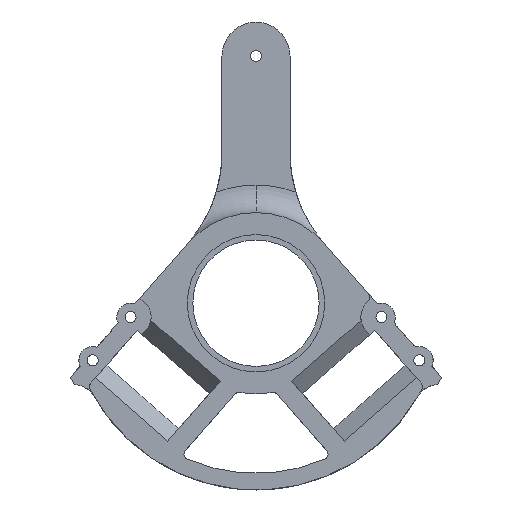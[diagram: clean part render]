
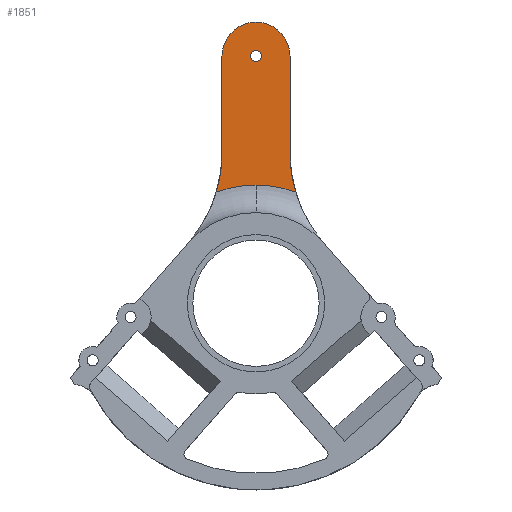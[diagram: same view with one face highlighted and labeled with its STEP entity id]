
A CAD part, front view. The second image highlights one B-rep face of the part: STEP entity #1851.
In plain terms, the highlighted planar face has unit normal (0, -1, 0).
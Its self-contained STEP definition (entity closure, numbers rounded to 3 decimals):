
#8 = ORIENTED_EDGE ( 'NONE', *, *, #3135, .F. ) ;
#15 = EDGE_CURVE ( 'NONE', #4432, #2403, #2552, .T. ) ;
#127 = EDGE_CURVE ( 'NONE', #4132, #5737, #1988, .T. ) ;
#128 = CARTESIAN_POINT ( 'NONE',  ( -12.386, -4.9, 54.745 ) ) ;
#196 = CARTESIAN_POINT ( 'NONE',  ( 12.386, -4.9, 90. ) ) ;
#304 = DIRECTION ( 'NONE',  ( 0., 1., 0. ) ) ;
#390 = CARTESIAN_POINT ( 'NONE',  ( 0., -4.9, 0. ) ) ;
#444 = ORIENTED_EDGE ( 'NONE', *, *, #15, .F. ) ;
#465 = ORIENTED_EDGE ( 'NONE', *, *, #127, .T. ) ;
#480 = EDGE_CURVE ( 'NONE', #1396, #1850, #2230, .T. ) ;
#505 = EDGE_CURVE ( 'NONE', #2403, #5587, #2921, .T. ) ;
#656 = DIRECTION ( 'NONE',  ( 0., 0., 1. ) ) ;
#1105 = CARTESIAN_POINT ( 'NONE',  ( 0., -4.9, 43. ) ) ;
#1244 = CARTESIAN_POINT ( 'NONE',  ( -12.386, -4.9, 90. ) ) ;
#1271 = EDGE_LOOP ( 'NONE', ( #4277, #1414 ) ) ;
#1318 = FACE_BOUND ( 'NONE', #1271, .T. ) ;
#1365 = CIRCLE ( 'NONE', #4124, 2.05 ) ;
#1396 = VERTEX_POINT ( 'NONE', #2003 ) ;
#1414 = ORIENTED_EDGE ( 'NONE', *, *, #480, .T. ) ;
#1444 = CIRCLE ( 'NONE', #2975, 12.386 ) ;
#1538 = CARTESIAN_POINT ( 'NONE',  ( 0., -4.9, 102.386 ) ) ;
#1579 = ORIENTED_EDGE ( 'NONE', *, *, #3502, .T. ) ;
#1621 = DIRECTION ( 'NONE',  ( 0., -1., 0. ) ) ;
#1630 = ORIENTED_EDGE ( 'NONE', *, *, #2765, .F. ) ;
#1739 = DIRECTION ( 'NONE',  ( 0., 0., 1. ) ) ;
#1751 = CIRCLE ( 'NONE', #1832, 43. ) ;
#1832 = AXIS2_PLACEMENT_3D ( 'NONE', #5230, #5260, #4370 ) ;
#1850 = VERTEX_POINT ( 'NONE', #2246 ) ;
#1851 = ADVANCED_FACE ( 'NONE', ( #1318, #2690 ), #3111, .F. ) ;
#1925 = VECTOR ( 'NONE', #2852, 1000. ) ;
#1988 = CIRCLE ( 'NONE', #2193, 43. ) ;
#2003 = CARTESIAN_POINT ( 'NONE',  ( 0., -4.9, 87.95 ) ) ;
#2099 = ORIENTED_EDGE ( 'NONE', *, *, #5448, .F. ) ;
#2193 = AXIS2_PLACEMENT_3D ( 'NONE', #390, #4017, #1739 ) ;
#2212 = DIRECTION ( 'NONE',  ( 0., 0., 1. ) ) ;
#2230 = CIRCLE ( 'NONE', #5544, 2.05 ) ;
#2246 = CARTESIAN_POINT ( 'NONE',  ( 0., -4.9, 92.05 ) ) ;
#2381 = DIRECTION ( 'NONE',  ( 0., 1., 0. ) ) ;
#2403 = VERTEX_POINT ( 'NONE', #3722 ) ;
#2416 = DIRECTION ( 'NONE',  ( 0., 1., 0. ) ) ;
#2483 = VERTEX_POINT ( 'NONE', #5749 ) ;
#2494 = CARTESIAN_POINT ( 'NONE',  ( 0., -4.9, 90. ) ) ;
#2552 = CIRCLE ( 'NONE', #4262, 50. ) ;
#2690 = FACE_OUTER_BOUND ( 'NONE', #3119, .T. ) ;
#2765 = EDGE_CURVE ( 'NONE', #3537, #2483, #5017, .T. ) ;
#2781 = CARTESIAN_POINT ( 'NONE',  ( -14.459, -4.9, 40.496 ) ) ;
#2813 = ORIENTED_EDGE ( 'NONE', *, *, #505, .F. ) ;
#2824 = CARTESIAN_POINT ( 'NONE',  ( 0., -4.9, 90. ) ) ;
#2851 = DIRECTION ( 'NONE',  ( 0., 1., 0. ) ) ;
#2852 = DIRECTION ( 'NONE',  ( 0., 0., 1. ) ) ;
#2921 = LINE ( 'NONE', #128, #1925 ) ;
#2973 = AXIS2_PLACEMENT_3D ( 'NONE', #4480, #3556, #2212 ) ;
#2975 = AXIS2_PLACEMENT_3D ( 'NONE', #3304, #2851, #4663 ) ;
#3111 = PLANE ( 'NONE',  #2973 ) ;
#3119 = EDGE_LOOP ( 'NONE', ( #444, #1579, #465, #3803, #1630, #2099, #8, #2813 ) ) ;
#3135 = EDGE_CURVE ( 'NONE', #5587, #5397, #1444, .T. ) ;
#3258 = CARTESIAN_POINT ( 'NONE',  ( 14.459, -4.9, 40.496 ) ) ;
#3277 = DIRECTION ( 'NONE',  ( 0., 0., 1. ) ) ;
#3304 = CARTESIAN_POINT ( 'NONE',  ( 0., -4.9, 90. ) ) ;
#3333 = CARTESIAN_POINT ( 'NONE',  ( 62.386, -4.9, 54.745 ) ) ;
#3502 = EDGE_CURVE ( 'NONE', #4432, #4132, #1751, .T. ) ;
#3537 = VERTEX_POINT ( 'NONE', #196 ) ;
#3556 = DIRECTION ( 'NONE',  ( 0., 1., 0. ) ) ;
#3722 = CARTESIAN_POINT ( 'NONE',  ( -12.386, -4.9, 54.745 ) ) ;
#3800 = DIRECTION ( 'NONE',  ( 0., 0., -1. ) ) ;
#3803 = ORIENTED_EDGE ( 'NONE', *, *, #5427, .F. ) ;
#3844 = AXIS2_PLACEMENT_3D ( 'NONE', #3333, #5558, #4726 ) ;
#3989 = CARTESIAN_POINT ( 'NONE',  ( -62.386, -4.9, 54.745 ) ) ;
#4017 = DIRECTION ( 'NONE',  ( 0., 1., 0. ) ) ;
#4038 = CIRCLE ( 'NONE', #4784, 12.386 ) ;
#4124 = AXIS2_PLACEMENT_3D ( 'NONE', #2494, #304, #4401 ) ;
#4132 = VERTEX_POINT ( 'NONE', #1105 ) ;
#4203 = VECTOR ( 'NONE', #3800, 1000. ) ;
#4262 = AXIS2_PLACEMENT_3D ( 'NONE', #3989, #1621, #5698 ) ;
#4277 = ORIENTED_EDGE ( 'NONE', *, *, #5515, .T. ) ;
#4370 = DIRECTION ( 'NONE',  ( 0., 0., 1. ) ) ;
#4401 = DIRECTION ( 'NONE',  ( 0., 0., 1. ) ) ;
#4417 = CIRCLE ( 'NONE', #3844, 50. ) ;
#4432 = VERTEX_POINT ( 'NONE', #2781 ) ;
#4480 = CARTESIAN_POINT ( 'NONE',  ( 62.386, -4.9, 54.745 ) ) ;
#4663 = DIRECTION ( 'NONE',  ( 0., 0., 1. ) ) ;
#4726 = DIRECTION ( 'NONE',  ( 0., 0., 1. ) ) ;
#4784 = AXIS2_PLACEMENT_3D ( 'NONE', #5084, #2381, #656 ) ;
#5017 = LINE ( 'NONE', #5133, #4203 ) ;
#5084 = CARTESIAN_POINT ( 'NONE',  ( 0., -4.9, 90. ) ) ;
#5133 = CARTESIAN_POINT ( 'NONE',  ( 12.386, -4.9, 54.745 ) ) ;
#5230 = CARTESIAN_POINT ( 'NONE',  ( 0., -4.9, 0. ) ) ;
#5260 = DIRECTION ( 'NONE',  ( 0., 1., 0. ) ) ;
#5397 = VERTEX_POINT ( 'NONE', #1538 ) ;
#5427 = EDGE_CURVE ( 'NONE', #2483, #5737, #4417, .T. ) ;
#5448 = EDGE_CURVE ( 'NONE', #5397, #3537, #4038, .T. ) ;
#5515 = EDGE_CURVE ( 'NONE', #1850, #1396, #1365, .T. ) ;
#5544 = AXIS2_PLACEMENT_3D ( 'NONE', #2824, #2416, #3277 ) ;
#5558 = DIRECTION ( 'NONE',  ( 0., -1., 0. ) ) ;
#5587 = VERTEX_POINT ( 'NONE', #1244 ) ;
#5698 = DIRECTION ( 'NONE',  ( 0., 0., -1. ) ) ;
#5737 = VERTEX_POINT ( 'NONE', #3258 ) ;
#5749 = CARTESIAN_POINT ( 'NONE',  ( 12.386, -4.9, 54.745 ) ) ;
